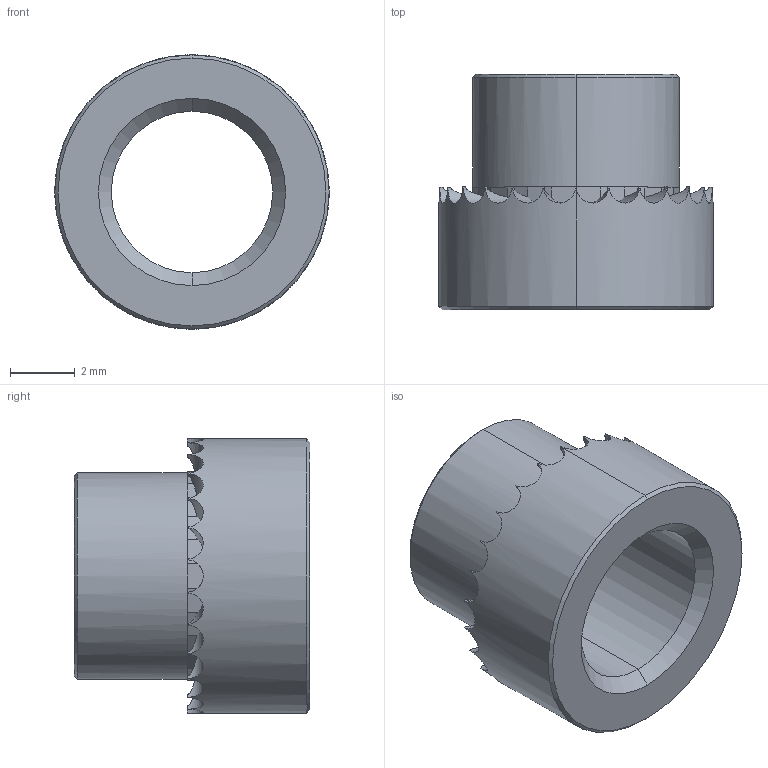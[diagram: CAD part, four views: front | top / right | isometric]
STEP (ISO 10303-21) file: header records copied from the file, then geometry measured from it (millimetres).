
FILE_DESCRIPTION (( 'STEP AP203' ), '1' );
FILE_NAME ('P0829.050-10G-ZP.step', '2019-03-21T22:17:47', ( '' ), ( '' ), 'SwSTEP 2.0', 'SolidWorks 2017', '' );
FILE_SCHEMA (( 'CONFIG_CONTROL_DESIGN' ));
Length unit declared in the file: millimetre
Products named in the file (1): P0829.050-10G-ZP
Bounding box: 8.5 x 7.3 x 8.5 mm (x, y, z)
Volume: 171.8 mm3; surface area: 356.9 mm2
Topology: 1 solids, 1 shells, 120 faces, 294 edges, 176 vertices
Faces by surface type: plane 80, cylinder 32, cone 8
Entity records: 3739 total; most frequent: CARTESIAN_POINT 903, ORIENTED_EDGE 588, DIRECTION 582, EDGE_CURVE 294, AXIS2_PLACEMENT_3D 219, VERTEX_POINT 176, VECTOR 144, LINE 144
